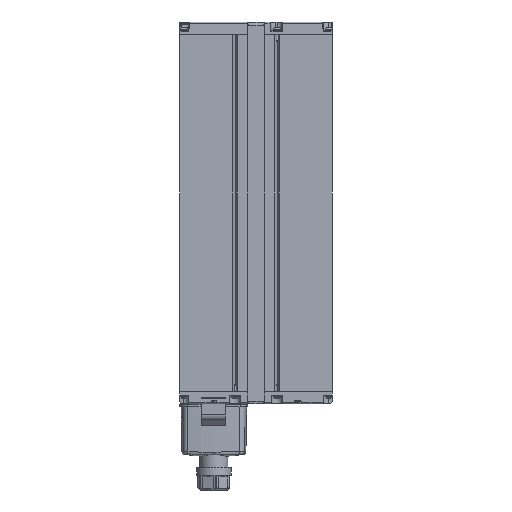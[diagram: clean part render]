
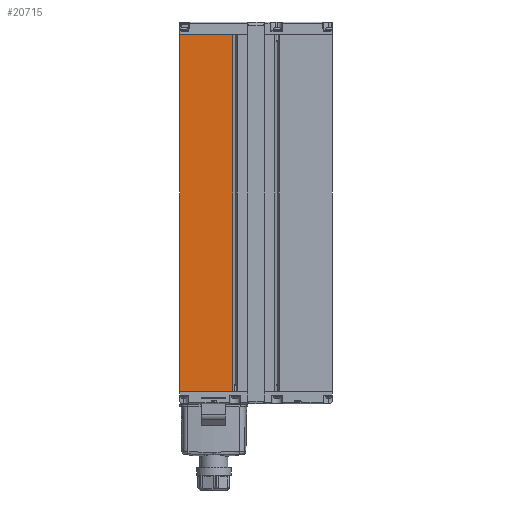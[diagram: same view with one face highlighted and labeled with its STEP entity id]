
A CAD part, front view. The second image highlights one B-rep face of the part: STEP entity #20715.
In plain terms, the highlighted planar face has unit normal (0, -1, 0) as drawn and (0, 1, 0) by its records, which use the part's own axes.
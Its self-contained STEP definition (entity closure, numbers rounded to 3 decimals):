
#2712 = LINE ( 'NONE', #20006, #54192 ) ;
#5961 = CARTESIAN_POINT ( 'NONE',  ( -18.376, 20., 140. ) ) ;
#12586 = CARTESIAN_POINT ( 'NONE',  ( -60., 20., 140. ) ) ;
#14124 = EDGE_LOOP ( 'NONE', ( #68638, #100030, #49328, #36744 ) ) ;
#14125 = VERTEX_POINT ( 'NONE', #5961 ) ;
#15240 = CARTESIAN_POINT ( 'NONE',  ( -18.376, 20., -140. ) ) ;
#15698 = VERTEX_POINT ( 'NONE', #15240 ) ;
#16072 = DIRECTION ( 'NONE',  ( 1., 0., 0. ) ) ;
#17105 = LINE ( 'NONE', #12586, #38923 ) ;
#20006 = CARTESIAN_POINT ( 'NONE',  ( 0., 20., -140. ) ) ;
#20715 = ADVANCED_FACE ( 'NONE', ( #81134 ), #56715, .F. ) ;
#25380 = EDGE_CURVE ( 'NONE', #14125, #92506, #101059, .T. ) ;
#27045 = AXIS2_PLACEMENT_3D ( 'NONE', #98936, #72475, #16072 ) ;
#28075 = VERTEX_POINT ( 'NONE', #86715 ) ;
#28538 = EDGE_CURVE ( 'NONE', #14125, #15698, #51204, .T. ) ;
#31472 = VECTOR ( 'NONE', #84302, 1000. ) ;
#36744 = ORIENTED_EDGE ( 'NONE', *, *, #28538, .T. ) ;
#38923 = VECTOR ( 'NONE', #83297, 1000. ) ;
#49328 = ORIENTED_EDGE ( 'NONE', *, *, #25380, .F. ) ;
#51204 = LINE ( 'NONE', #93517, #69931 ) ;
#54192 = VECTOR ( 'NONE', #102392, 1000. ) ;
#56715 = PLANE ( 'NONE',  #27045 ) ;
#57675 = EDGE_CURVE ( 'NONE', #92506, #28075, #17105, .T. ) ;
#68638 = ORIENTED_EDGE ( 'NONE', *, *, #78010, .T. ) ;
#69931 = VECTOR ( 'NONE', #77769, 1000. ) ;
#72475 = DIRECTION ( 'NONE',  ( 0., -1., 0. ) ) ;
#77769 = DIRECTION ( 'NONE',  ( 0., 0., -1. ) ) ;
#78010 = EDGE_CURVE ( 'NONE', #15698, #28075, #2712, .T. ) ;
#78573 = CARTESIAN_POINT ( 'NONE',  ( -60., 20., 140. ) ) ;
#81134 = FACE_OUTER_BOUND ( 'NONE', #14124, .T. ) ;
#82735 = CARTESIAN_POINT ( 'NONE',  ( 0., 20., 140. ) ) ;
#83297 = DIRECTION ( 'NONE',  ( 0., 0., -1. ) ) ;
#84302 = DIRECTION ( 'NONE',  ( -1., 0., 0. ) ) ;
#86715 = CARTESIAN_POINT ( 'NONE',  ( -60., 20., -140. ) ) ;
#92506 = VERTEX_POINT ( 'NONE', #78573 ) ;
#93517 = CARTESIAN_POINT ( 'NONE',  ( -18.376, 20., 140. ) ) ;
#98936 = CARTESIAN_POINT ( 'NONE',  ( 0., 20., 140. ) ) ;
#100030 = ORIENTED_EDGE ( 'NONE', *, *, #57675, .F. ) ;
#101059 = LINE ( 'NONE', #82735, #31472 ) ;
#102392 = DIRECTION ( 'NONE',  ( -1., 0., 0. ) ) ;
